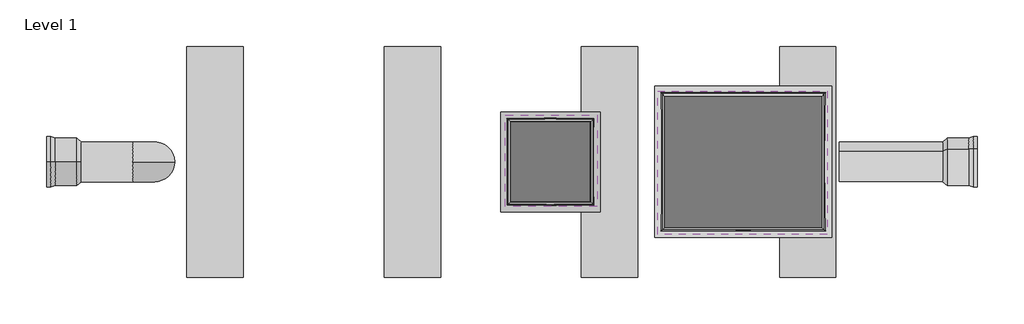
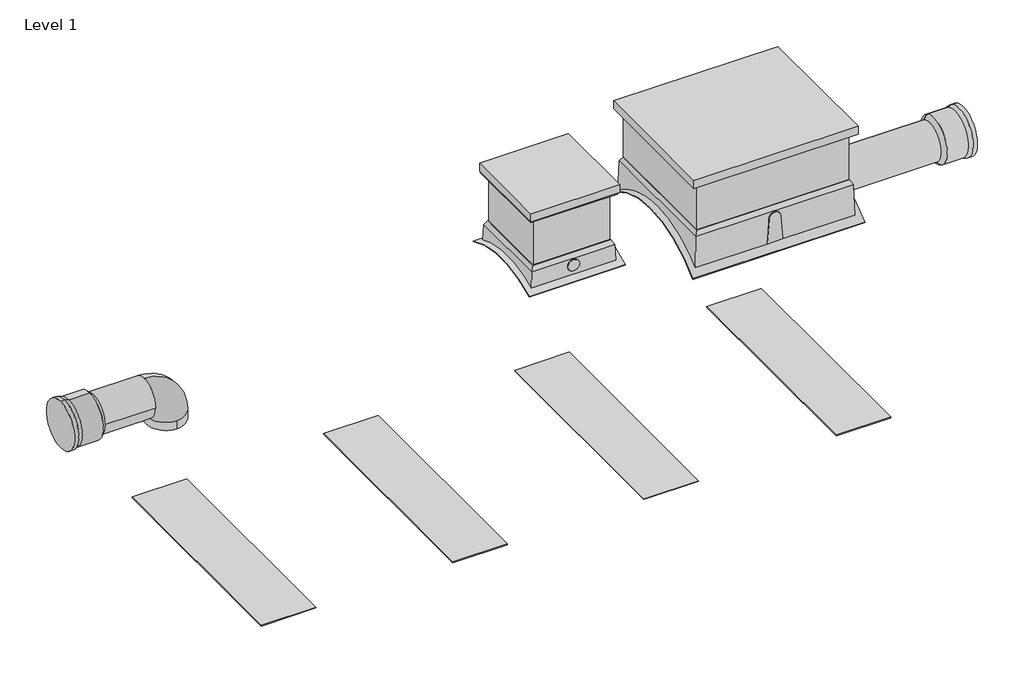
# One storey, incomplete: 12 proxies.
"""IFC4 building model written with IfcOpenShell, lengths in millimetres."""

from ifc_helpers import new_model, si_unit, origin, place, context, project, spatial, transform, mapped, element, save
from components import generic_models_cfe88e4f, generic_models_291f0a55, generic_models_1ade828a, generic_models_d0b4e73c, generic_models_ba4cfca8, generic_models_47c2befc, generic_models_27197e94, proxy_450_stormpro_inlet_elbow_3b9101ad, proxy_450_stormpro_pipe_and_socket_72c2e627

model = new_model("IFC4")

# Units and contexts
model_context = context("Model", 3, world=origin())
ifc_project = project(units=[si_unit("LENGTHUNIT", "METRE", prefix="MILLI")], contexts=[model_context])

# Site, building, storey
site = spatial("IfcSite", under=ifc_project)
building = spatial("IfcBuilding", under=site)
storey = spatial("IfcBuildingStorey", under=building, Name="Level 1", Elevation=0.0)

# Proxies
placement = place(None, origin())
generic_models_shape = generic_models_cfe88e4f(model_context)
element("IfcBuildingElementProxy", 1, Name="SU.HS.FOOT.2500", ObjectType="SU.HS.FOOT.2500", at=placement, inside=storey, context=model_context, shape_type="MappedRepresentation", body=[
    mapped(generic_models_shape, transform((-4255.7855182, -13.0189138, -1631.7858921), x_axis=(0.0, 1.0, 0.0), y_axis=(0.0, 0.0, 1.0), z_axis=(1.0, 0.0, 0.0))),
])
element("IfcBuildingElementProxy", 2, Name="SU.HS.FOOT.2500", ObjectType="SU.HS.FOOT.2500", at=placement, inside=storey, context=model_context, shape_type="MappedRepresentation", body=[
    mapped(generic_models_shape, transform((-1969.631672, -13.0189138, -1631.7858921), x_axis=(0.0, 1.0, 0.0), y_axis=(0.0, 0.0, 1.0), z_axis=(1.0, 0.0, 0.0))),
])
element("IfcBuildingElementProxy", 3, Name="SU.HS.FOOT.2500", ObjectType="SU.HS.FOOT.2500", at=placement, inside=storey, context=model_context, shape_type="MappedRepresentation", body=[
    mapped(generic_models_shape, transform((2602.6760203, -13.0189138, -1631.7858921), x_axis=(0.0, 1.0, 0.0), y_axis=(0.0, 0.0, 1.0), z_axis=(1.0, 0.0, 0.0))),
])
element("IfcBuildingElementProxy", 4, Name="SU.HS.FOOT.2500", ObjectType="SU.HS.FOOT.2500", at=placement, inside=storey, context=model_context, shape_type="MappedRepresentation", body=[
    mapped(generic_models_shape, transform((309.6317804, -13.0189138, -1631.7858921), x_axis=(0.0, 1.0, 0.0), y_axis=(0.0, 0.0, 1.0), z_axis=(1.0, 0.0, 0.0))),
])
generic_models_2_shape = generic_models_291f0a55(model_context)
element("IfcBuildingElementProxy", 5, Name="SU.1500x1800ManwayRiserAdaptor.2500", ObjectType="SU.1500x1800ManwayRiserAdaptor.2500", at=placement, inside=storey, context=model_context, shape_type="MappedRepresentation", body=[
    mapped(generic_models_2_shape, transform((2082.0321384, -13.0189138, 1117.8724857), x_axis=(0.0, 1.0, 0.0), y_axis=(0.0, 0.0, 1.0), z_axis=(1.0, 0.0, 0.0))),
])
generic_models_3_shape = generic_models_1ade828a(model_context)
element("IfcBuildingElementProxy", 6, Name="1500x1800 Manway Cover Class D ST-02", ObjectType="1500x1800 Manway Cover Class D ST-02", at=placement, inside=storey, context=model_context, shape_type="MappedRepresentation", body=[
    mapped(generic_models_3_shape, transform((2072.0321384, -23.0189138, 1673.8765111), x_axis=(0.0, 1.0, 0.0), y_axis=(0.0, 0.0, 1.0), z_axis=(1.0, 0.0, 0.0))),
])
generic_models_4_shape = generic_models_d0b4e73c(model_context)
element("IfcBuildingElementProxy", 7, Name="SU.900x900ManwayRiserAdapter.2500", ObjectType="SU.900x900ManwayRiserAdapter.2500", at=placement, inside=storey, context=model_context, shape_type="MappedRepresentation", body=[
    mapped(generic_models_4_shape, transform((-149.4038616, -13.0189138, 1117.8765111), x_axis=(0.0, -1.0, 0.0), y_axis=(0.0, 0.0, 1.0), z_axis=(-1.0, 0.0, 0.0))),
])
generic_models_5_shape = generic_models_ba4cfca8(model_context)
element("IfcBuildingElementProxy", 8, Name="1500x1800x600 Manway Riser", ObjectType="1500x1800x600 Manway Riser", at=placement, inside=storey, context=model_context, shape_type="MappedRepresentation", body=[
    mapped(generic_models_5_shape, transform((2082.0321384, -13.0189138, 1673.8765111), x_axis=(0.0, 1.0, 0.0), y_axis=(0.0, 0.0, 1.0), z_axis=(1.0, 0.0, 0.0))),
])
generic_models_6_shape = generic_models_47c2befc(model_context)
element("IfcBuildingElementProxy", 9, Name="900x900x600 Manway Riser", ObjectType="900x900x600 Manway Riser", at=placement, inside=storey, context=model_context, shape_type="MappedRepresentation", body=[
    mapped(generic_models_6_shape, transform((-149.4002043, -13.0152565, 1673.8765111), x_axis=(0.0, 1.0, 0.0), y_axis=(0.0, 0.0, 1.0), z_axis=(1.0, 0.0, 0.0))),
])
generic_models_7_shape = generic_models_27197e94(model_context)
element("IfcBuildingElementProxy", 10, Name="900x900 Manway Cover Class D ST-02", ObjectType="900x900 Manway Cover Class D ST-02", at=placement, inside=storey, context=model_context, shape_type="MappedRepresentation", body=[
    mapped(generic_models_7_shape, transform((-139.4002043, -3.0152565, 1673.8765111), x_axis=(0.0, 1.0, 0.0), y_axis=(0.0, 0.0, 1.0), z_axis=(1.0, 0.0, 0.0))),
])
proxy_450_stormpro_inlet_elbow_shape = proxy_450_stormpro_inlet_elbow_3b9101ad(model_context)
element("IfcBuildingElementProxy", 11, Name="450 StormPro Inlet Elbow", ObjectType="450 StormPro Inlet Elbow", at=placement, inside=storey, context=model_context, shape_type="MappedRepresentation", body=[
    mapped(proxy_450_stormpro_inlet_elbow_shape, transform((-5529.9999458, -13.0189138, 659.8743619), x_axis=(0.0, -1.0, 0.0), y_axis=(0.0, 0.0, 1.0), z_axis=(-1.0, 0.0, 0.0))),
])
proxy_450_stormpro_pipe_and_socket_shape = proxy_450_stormpro_pipe_and_socket_72c2e627(model_context)
element("IfcBuildingElementProxy", 12, Name="450 StormPro Pipe and Socket", ObjectType="450 StormPro Pipe and Socket", at=placement, inside=storey, context=model_context, shape_type="MappedRepresentation", body=[
    mapped(proxy_450_stormpro_pipe_and_socket_shape, transform((1692.7464242, -13.0189138, 609.2141079), x_axis=(0.0, 0.8432797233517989, -0.5374749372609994), y_axis=(0.0, 0.5374749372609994, 0.8432797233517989), z_axis=(0.9999999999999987, 0.0, 0.0))),
])

save(model, "model.ifc")
